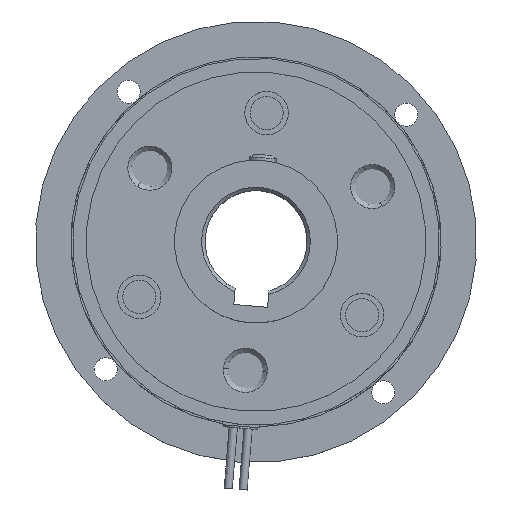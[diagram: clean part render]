
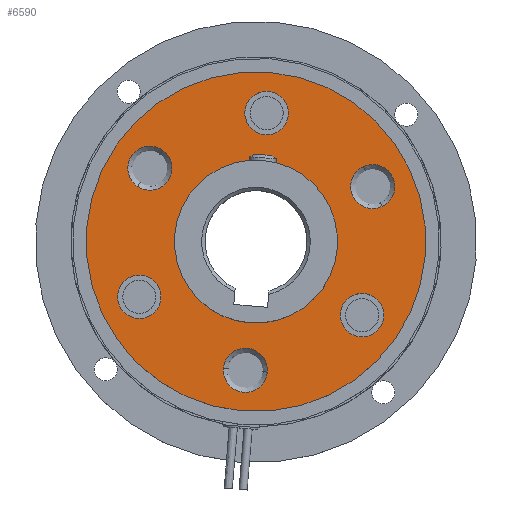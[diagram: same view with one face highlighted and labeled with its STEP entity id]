
A CAD part, top view. The second image highlights one B-rep face of the part: STEP entity #6590.
In plain terms, the highlighted planar face has unit normal (0, 0, 1).
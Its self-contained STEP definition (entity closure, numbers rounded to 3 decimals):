
#5354=CARTESIAN_POINT('',(-25.0,0.,3.0));
#5355=VERTEX_POINT('',#5354);
#5371=CARTESIAN_POINT('',(25.0,0.,3.0));
#5372=VERTEX_POINT('',#5371);
#5379=CARTESIAN_POINT('',(0.0,0.0,3.0));
#5380=DIRECTION('',(0.0,0.0,-1.0));
#5381=DIRECTION('',(-1.0,0.0,0.0));
#5382=AXIS2_PLACEMENT_3D('',#5379,#5380,#5381);
#5383=CIRCLE('',#5382,25.0);
#5384=EDGE_CURVE('',#5372,#5355,#5383,.T.);
#5394=CARTESIAN_POINT('',(-12.0,0.,3.0));
#5395=VERTEX_POINT('',#5394);
#5404=CARTESIAN_POINT('',(12.0,0.,3.0));
#5405=VERTEX_POINT('',#5404);
#5406=CARTESIAN_POINT('',(0.0,0.0,3.0));
#5407=DIRECTION('',(0.0,0.0,-1.0));
#5408=DIRECTION('',(-1.0,0.0,0.0));
#5409=AXIS2_PLACEMENT_3D('',#5406,#5407,#5408);
#5410=CIRCLE('',#5409,12.0);
#5411=EDGE_CURVE('',#5405,#5395,#5410,.T.);
#5540=CARTESIAN_POINT('',(-3.25,-19.0,3.0));
#5541=VERTEX_POINT('',#5540);
#5555=CARTESIAN_POINT('',(3.25,-19.0,3.0));
#5556=VERTEX_POINT('',#5555);
#5563=CARTESIAN_POINT('',(0.,-19.0,3.0));
#5564=DIRECTION('',(0.0,0.0,1.0));
#5565=DIRECTION('',(-1.0,0.0,0.0));
#5566=AXIS2_PLACEMENT_3D('',#5563,#5564,#5565);
#5567=CIRCLE('',#5566,3.25);
#5568=EDGE_CURVE('',#5556,#5541,#5567,.T.);
#5620=CARTESIAN_POINT('',(18.079,6.685,3.0));
#5621=VERTEX_POINT('',#5620);
#5635=CARTESIAN_POINT('',(14.829,12.315,3.0));
#5636=VERTEX_POINT('',#5635);
#5643=CARTESIAN_POINT('',(16.454,9.5,3.0));
#5644=DIRECTION('',(0.0,0.0,1.0));
#5645=DIRECTION('',(0.5,-0.866,0.0));
#5646=AXIS2_PLACEMENT_3D('',#5643,#5644,#5645);
#5647=CIRCLE('',#5646,3.25);
#5648=EDGE_CURVE('',#5636,#5621,#5647,.T.);
#5700=CARTESIAN_POINT('',(-14.829,12.315,3.0));
#5701=VERTEX_POINT('',#5700);
#5715=CARTESIAN_POINT('',(-18.079,6.685,3.0));
#5716=VERTEX_POINT('',#5715);
#5723=CARTESIAN_POINT('',(-16.454,9.5,3.0));
#5724=DIRECTION('',(0.0,0.0,1.0));
#5725=DIRECTION('',(0.5,0.866,0.0));
#5726=AXIS2_PLACEMENT_3D('',#5723,#5724,#5725);
#5727=CIRCLE('',#5726,3.25);
#5728=EDGE_CURVE('',#5716,#5701,#5727,.T.);
#5740=CARTESIAN_POINT('',(-19.654,-9.5,3.0));
#5741=VERTEX_POINT('',#5740);
#5757=CARTESIAN_POINT('',(-13.254,-9.5,3.0));
#5758=VERTEX_POINT('',#5757);
#5765=CARTESIAN_POINT('',(-16.454,-9.5,3.0));
#5766=DIRECTION('',(0.0,0.0,-1.0));
#5767=DIRECTION('',(-1.0,0.0,0.0));
#5768=AXIS2_PLACEMENT_3D('',#5765,#5766,#5767);
#5769=CIRCLE('',#5768,3.2);
#5770=EDGE_CURVE('',#5741,#5758,#5769,.T.);
#5782=CARTESIAN_POINT('',(1.6,21.771,3.0));
#5783=VERTEX_POINT('',#5782);
#5799=CARTESIAN_POINT('',(-1.6,16.229,3.));
#5800=VERTEX_POINT('',#5799);
#5807=CARTESIAN_POINT('',(0.,19.0,3.0));
#5808=DIRECTION('',(0.0,0.0,-1.));
#5809=DIRECTION('',(0.5,0.866,0.0));
#5810=AXIS2_PLACEMENT_3D('',#5807,#5808,#5809);
#5811=CIRCLE('',#5810,3.2);
#5812=EDGE_CURVE('',#5783,#5800,#5811,.T.);
#5824=CARTESIAN_POINT('',(18.054,-12.271,3.0));
#5825=VERTEX_POINT('',#5824);
#5841=CARTESIAN_POINT('',(14.854,-6.729,3.0));
#5842=VERTEX_POINT('',#5841);
#5849=CARTESIAN_POINT('',(16.454,-9.5,3.0));
#5850=DIRECTION('',(0.0,0.0,-1.));
#5851=DIRECTION('',(0.5,-0.866,0.0));
#5852=AXIS2_PLACEMENT_3D('',#5849,#5850,#5851);
#5853=CIRCLE('',#5852,3.2);
#5854=EDGE_CURVE('',#5825,#5842,#5853,.T.);
#6463=CARTESIAN_POINT('',(16.454,-9.5,3.0));
#6464=DIRECTION('',(0.0,0.0,-1.));
#6465=DIRECTION('',(0.5,-0.866,0.0));
#6466=AXIS2_PLACEMENT_3D('',#6463,#6464,#6465);
#6467=CIRCLE('',#6466,3.2);
#6468=EDGE_CURVE('',#5842,#5825,#6467,.T.);
#6481=CARTESIAN_POINT('',(0.,19.0,3.0));
#6482=DIRECTION('',(0.0,0.0,-1.));
#6483=DIRECTION('',(0.5,0.866,0.0));
#6484=AXIS2_PLACEMENT_3D('',#6481,#6482,#6483);
#6485=CIRCLE('',#6484,3.2);
#6486=EDGE_CURVE('',#5800,#5783,#6485,.T.);
#6499=CARTESIAN_POINT('',(-16.454,-9.5,3.0));
#6500=DIRECTION('',(0.0,0.0,-1.0));
#6501=DIRECTION('',(-1.0,0.0,0.0));
#6502=AXIS2_PLACEMENT_3D('',#6499,#6500,#6501);
#6503=CIRCLE('',#6502,3.2);
#6504=EDGE_CURVE('',#5758,#5741,#6503,.T.);
#6517=CARTESIAN_POINT('',(-16.454,9.5,3.0));
#6518=DIRECTION('',(0.0,0.0,1.0));
#6519=DIRECTION('',(0.5,0.866,0.0));
#6520=AXIS2_PLACEMENT_3D('',#6517,#6518,#6519);
#6521=CIRCLE('',#6520,3.25);
#6522=EDGE_CURVE('',#5701,#5716,#6521,.T.);
#6529=CARTESIAN_POINT('',(0.0,0.0,3.0));
#6530=DIRECTION('',(0.0,0.0,-1.0));
#6531=DIRECTION('',(-1.0,0.0,0.0));
#6532=AXIS2_PLACEMENT_3D('',#6529,#6530,#6531);
#6533=PLANE('',#6532);
#6534=ORIENTED_EDGE('',*,*,#5384,.F.);
#6535=CARTESIAN_POINT('',(0.0,0.0,3.0));
#6536=DIRECTION('',(0.0,0.0,-1.0));
#6537=DIRECTION('',(-1.0,0.0,0.0));
#6538=AXIS2_PLACEMENT_3D('',#6535,#6536,#6537);
#6539=CIRCLE('',#6538,25.0);
#6540=EDGE_CURVE('',#5355,#5372,#6539,.T.);
#6541=ORIENTED_EDGE('',*,*,#6540,.F.);
#6542=EDGE_LOOP('',(#6534,#6541));
#6543=FACE_OUTER_BOUND('',#6542,.T.);
#6544=ORIENTED_EDGE('',*,*,#6468,.T.);
#6545=ORIENTED_EDGE('',*,*,#5854,.T.);
#6546=EDGE_LOOP('',(#6544,#6545));
#6547=FACE_BOUND('',#6546,.T.);
#6548=ORIENTED_EDGE('',*,*,#6486,.T.);
#6549=ORIENTED_EDGE('',*,*,#5812,.T.);
#6550=EDGE_LOOP('',(#6548,#6549));
#6551=FACE_BOUND('',#6550,.T.);
#6552=ORIENTED_EDGE('',*,*,#6504,.T.);
#6553=ORIENTED_EDGE('',*,*,#5770,.T.);
#6554=EDGE_LOOP('',(#6552,#6553));
#6555=FACE_BOUND('',#6554,.T.);
#6556=ORIENTED_EDGE('',*,*,#5648,.F.);
#6557=CARTESIAN_POINT('',(16.454,9.5,3.0));
#6558=DIRECTION('',(0.0,0.0,1.0));
#6559=DIRECTION('',(0.5,-0.866,0.0));
#6560=AXIS2_PLACEMENT_3D('',#6557,#6558,#6559);
#6561=CIRCLE('',#6560,3.25);
#6562=EDGE_CURVE('',#5621,#5636,#6561,.T.);
#6563=ORIENTED_EDGE('',*,*,#6562,.F.);
#6564=EDGE_LOOP('',(#6556,#6563));
#6565=FACE_BOUND('',#6564,.T.);
#6566=ORIENTED_EDGE('',*,*,#5411,.T.);
#6567=CARTESIAN_POINT('',(0.0,0.0,3.0));
#6568=DIRECTION('',(0.0,0.0,-1.0));
#6569=DIRECTION('',(-1.0,0.0,0.0));
#6570=AXIS2_PLACEMENT_3D('',#6567,#6568,#6569);
#6571=CIRCLE('',#6570,12.0);
#6572=EDGE_CURVE('',#5395,#5405,#6571,.T.);
#6573=ORIENTED_EDGE('',*,*,#6572,.T.);
#6574=EDGE_LOOP('',(#6566,#6573));
#6575=FACE_BOUND('',#6574,.T.);
#6576=ORIENTED_EDGE('',*,*,#5568,.F.);
#6577=CARTESIAN_POINT('',(0.,-19.0,3.0));
#6578=DIRECTION('',(0.0,0.0,1.0));
#6579=DIRECTION('',(-1.0,0.0,0.0));
#6580=AXIS2_PLACEMENT_3D('',#6577,#6578,#6579);
#6581=CIRCLE('',#6580,3.25);
#6582=EDGE_CURVE('',#5541,#5556,#6581,.T.);
#6583=ORIENTED_EDGE('',*,*,#6582,.F.);
#6584=EDGE_LOOP('',(#6576,#6583));
#6585=FACE_BOUND('',#6584,.T.);
#6586=ORIENTED_EDGE('',*,*,#5728,.F.);
#6587=ORIENTED_EDGE('',*,*,#6522,.F.);
#6588=EDGE_LOOP('',(#6586,#6587));
#6589=FACE_BOUND('',#6588,.T.);
#6590=ADVANCED_FACE('',(#6543,#6547,#6551,#6555,#6565,#6575,#6585,#6589),#6533,.F.);
